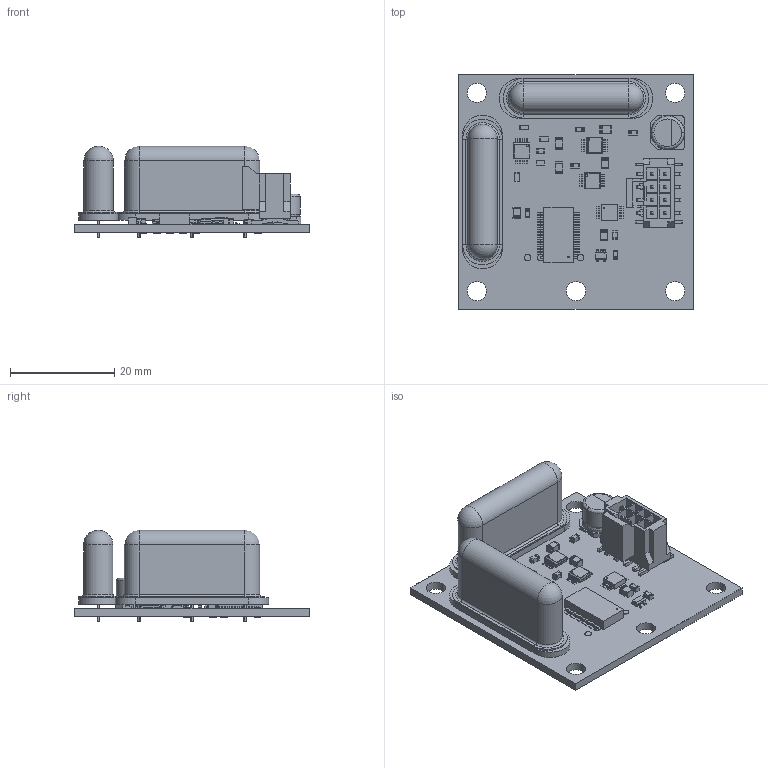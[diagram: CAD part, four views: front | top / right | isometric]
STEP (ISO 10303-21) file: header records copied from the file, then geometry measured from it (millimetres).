
FILE_DESCRIPTION (( 'STEP AP214' ), '1' );
FILE_NAME ('F225-00T-003-01.STEP', '2022-09-20T18:27:48', ( '' ), ( '' ), 'SwSTEP 2.0', 'SolidWorks 2022', '' );
FILE_SCHEMA (( 'AUTOMOTIVE_DESIGN' ));
Length unit declared in the file: inch
Products named in the file (1): F225-00T-003-01
Bounding box: 45.09 x 45.09 x 17.56 mm (x, y, z)
Volume: 5199.9 mm3; surface area: 11423 mm2
Topology: 164 solids, 164 shells, 2480 faces, 5623 edges, 3440 vertices
Faces by surface type: plane 1776, cylinder 586, sphere 58, bspline 28, cone 16, torus 16
Entity records: 104716 total; most frequent: CARTESIAN_POINT 15751, ORIENTED_EDGE 11182, DIRECTION 10979, EDGE_CURVE 5591, LINE 3871, VECTOR 3871, AXIS2_PLACEMENT_3D 3554, VERTEX_POINT 3436
